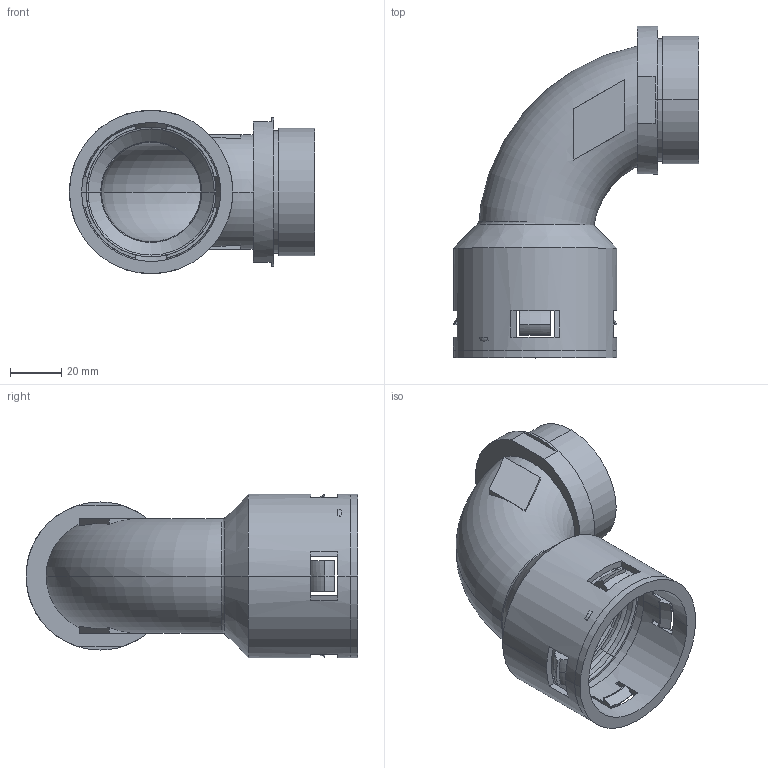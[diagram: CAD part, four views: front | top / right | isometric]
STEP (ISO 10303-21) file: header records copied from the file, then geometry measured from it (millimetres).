
FILE_DESCRIPTION (( 'STEP AP203' ), '1' );
FILE_NAME ('WQBW-M50-AD54.5.STEP', '2013-03-19T03:06:24', ( 'User' ), ( 'Microsoft' ), 'SwSTEP 2.0', 'SolidWorks 2010', '' );
FILE_SCHEMA (( 'CONFIG_CONTROL_DESIGN' ));
Length unit declared in the file: millimetre
Products named in the file (4): WQBW-M50-AD54.5; WQBW-M50-AD54.5-01; NSK-AD54.5; GFD-AD54.5
Assembly tree (3 placements, depth 2):
  WQBW-M50-AD54.5
    NSK-AD54.5
    WQBW-M50-AD54.5-01
    GFD-AD54.5
Bounding box: 96 x 130 x 64 mm (x, y, z)
Volume: 113046.8 mm3; surface area: 66515.5 mm2
Topology: 5 solids, 5 shells, 218 faces, 542 edges, 339 vertices
Faces by surface type: plane 107, cone 47, cylinder 32, torus 30, bspline 2
Entity records: 7523 total; most frequent: CARTESIAN_POINT 1791, DIRECTION 1177, ORIENTED_EDGE 1084, EDGE_CURVE 542, AXIS2_PLACEMENT_3D 463, VERTEX_POINT 339, LINE 251, VECTOR 251
